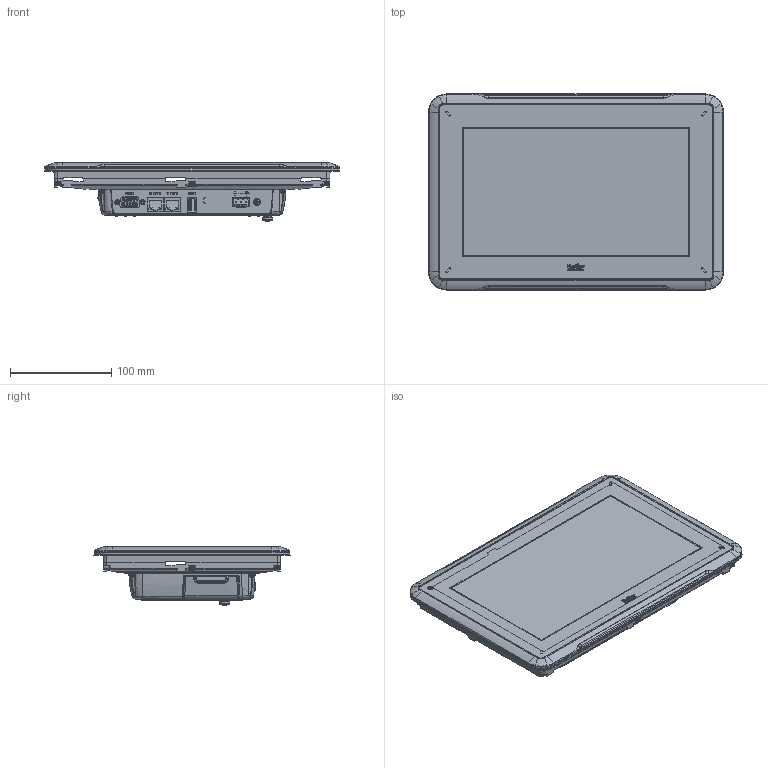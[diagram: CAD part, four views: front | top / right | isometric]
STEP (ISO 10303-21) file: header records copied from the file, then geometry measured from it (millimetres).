
FILE_DESCRIPTION (( 'STEP AP214' ), '1' );
FILE_NAME ('T10B-2_TerminalDwg.STEP', '2016-07-05T16:00:03', ( 'user' ), ( 'Microsoft' ), 'SwSTEP 2.0', 'SolidWorks 2015', '' );
FILE_SCHEMA (( 'AUTOMOTIVE_DESIGN' ));
Length unit declared in the file: millimetre
Products named in the file (1): T10B-2_TerminalDwg
Bounding box: 291.74 x 194 x 57.63 mm (x, y, z)
Surface area: 249860.3 mm2 (no closed solid volume)
Topology: 0 solids, 1247 shells, 1247 faces, 8536 edges, 8479 vertices
Faces by surface type: plane 487, bspline 359, cylinder 330, cone 71
Full cylindrical faces by diameter (mm): 1 x6, 2.261 x2, 3 x3, 3.5 x1, 6 x22, 6.7 x1, 10 x1
Entity records: 170934 total; most frequent: CARTESIAN_POINT 110681, VERTEX_POINT 8478, EDGE_CURVE 8478, ORIENTED_EDGE 8478, DIRECTION 7929, VECTOR 4059, LINE 4059, B_SPLINE_CURVE_WITH_KNOTS 3008
